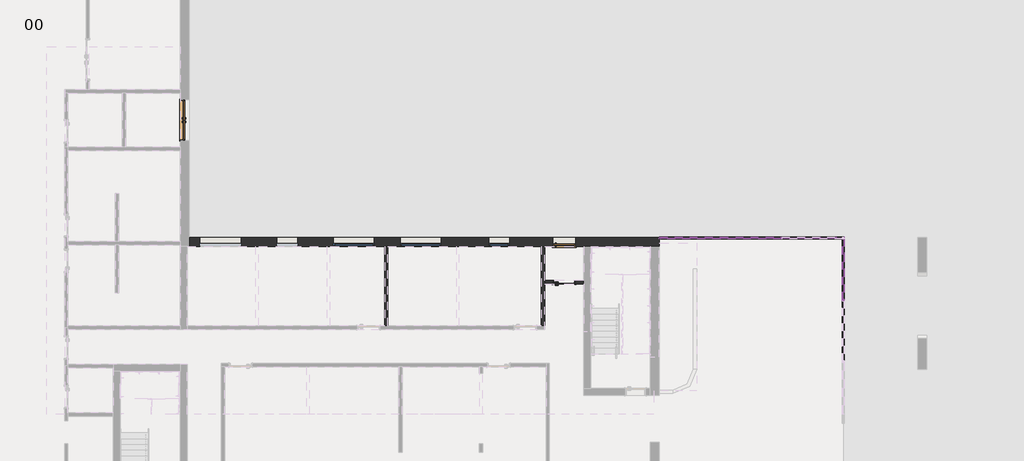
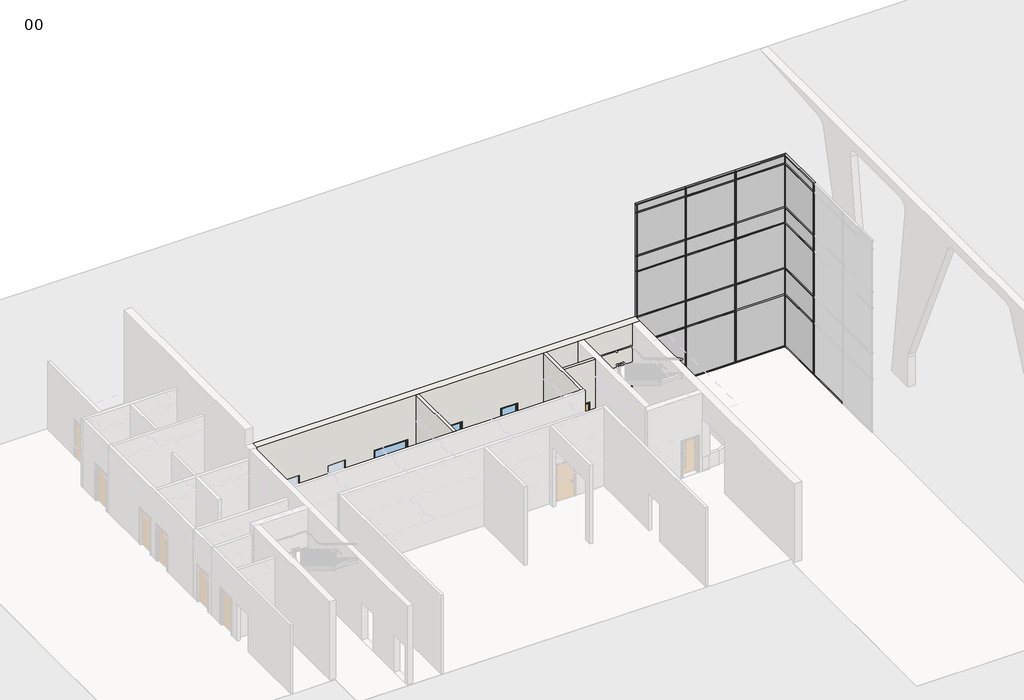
# One storey, part 7 of 11: 66 members, 24 plates, 4 walls, 3 doors, 3 windows.
"""IFC4 building model written with IfcOpenShell, lengths in millimetres."""

from ifc_helpers import new_model, si_unit, frame, origin, origin_with_axes, place, context, project, spatial, polyline, outline, extrude, faceted_brep, transform, mapped, element, save
from components import doors_extsgl_flush_1010x2110mm_caf77e55, doors_intsgl_1_1010x2110mm_7920e6b8, doors_sco_extdbl_flush_1810x2110mm_3cdf6cdb, rectangular_mullion_curtainwallmullion_rectangular_generic_8ae0e668, rectangular_mullion_curtainwallmullion_rectangular_generic_15c16c91, rectangular_mullion_curtainwallmullion_rectangular_generic_08fbcc14, rectangular_mullion_curtainwallmullion_rectangular_generic_83e55909, rectangular_mullion_curtainwallmullion_rectangular_generic_5675a122, rectangular_mullion_curtainwallmullion_rectangular_generic_397fb318, rectangular_mullion_curtainwallmullion_rectangular_generic_0a5b04f7, rectangular_mullion_curtainwallmullion_rectangular_generic_55e77994, rectangular_mullion_curtainwallmullion_rectangular_generic_aee1ee25, rectangular_mullion_curtainwallmullion_rectangular_generic_ecbc4312, rectangular_mullion_curtainwallmullion_rectangular_generic_5eb3c60d, rectangular_mullion_curtainwallmullion_rectangular_generic_0800385b, rectangular_mullion_curtainwallmullion_rectangular_generic_bd027367, rectangular_mullion_curtainwallmullion_rectangular_generic_2e425acd, rectangular_mullion_curtainwallmullion_rectangular_generic_12ad56c0, rectangular_mullion_curtainwallmullion_rectangular_generic_bd817207, rectangular_mullion_curtainwallmullion_rectangular_generic_654ac675, rectangular_mullion_curtainwallmullion_rectangular_generic_e7c47ca9, rectangular_mullion_curtainwallmullion_rectangular_generic_c0600e94, rectangular_mullion_curtainwallmullion_rectangular_generic_3bdb59d8, rectangular_mullion_curtainwallmullion_rectangular_generic_c640f651, rectangular_mullion_curtainwallmullion_rectangular_generic_afb0b622, rectangular_mullion_curtainwallmullion_rectangular_generic_b2d53351, rectangular_mullion_curtainwallmullion_rectangular_generic_d47b8a9d, system_panel_curtainpanel_glazed_34fb785a, system_panel_curtainpanel_glazed_e4a4eab4, system_panel_curtainpanel_glazed_add7ee21, system_panel_curtainpanel_glazed_62d472f1, system_panel_curtainpanel_glazed_085e24f9, system_panel_curtainpanel_glazed_61bd8d65, system_panel_curtainpanel_glazed_9c2ad216, system_panel_curtainpanel_glazed_ebc755d6, system_panel_curtainpanel_glazed_b0e91fb3, system_panel_curtainpanel_solid_dd3d5109, system_panel_curtainpanel_solid_473eca6b, system_panel_curtainpanel_solid_fc584997, system_panel_curtainpanel_solid_60141125, system_panel_curtainpanel_solid_58f7520c, system_panel_curtainpanel_solid_7c598b10, system_panel_curtainpanel_solid_5de49f81, system_panel_curtainpanel_solid_e1c9013e, system_panel_curtainpanel_solid_444add22, windows_concept_plain_sgl_1810x1210mm_7f7241d7, windows_concept_plain_sgl_910x1210mm_ef0b7ad2

model = new_model("IFC4")

# Units and contexts
model_context = context("Model", 3, world=origin())
ifc_project = project(units=[si_unit("LENGTHUNIT", "METRE", prefix="MILLI")], contexts=[model_context])

# Site, building, storey
site = spatial("IfcSite", under=ifc_project)
building = spatial("IfcBuilding", under=site)
storey = spatial("IfcBuildingStorey", under=building, Name="00", Elevation=0.0)

# Doors
placement = place(None, origin())
doors_extsgl_flush_1010x2110mm_shape = doors_extsgl_flush_1010x2110mm_caf77e55(model_context)
element("IfcDoor", 1, ObjectType="Doors_ExtSgl_Flush : 1010x2110mm", at=placement, inside=storey, context=model_context, shape_type="MappedRepresentation", body=[
    mapped(doors_extsgl_flush_1010x2110mm_shape, transform((441942.3206883, -381349.0026386, 0.0), x_axis=(1.0, 0.0, 0.0), y_axis=(0.0, 1.0, 0.0), z_axis=(0.0, 0.0, 1.0))),
])
doors_intsgl_1_1010x2110mm_shape = doors_intsgl_1_1010x2110mm_7920e6b8(model_context)
element("IfcDoor", 2, ObjectType="Doors_IntSgl_1 : 1010x2110mm", at=placement, inside=storey, context=model_context, shape_type="MappedRepresentation", body=[
    mapped(doors_intsgl_1_1010x2110mm_shape, transform((441942.3206883, -383125.0026386, 0.0), x_axis=(1.0, 0.0, 0.0), y_axis=(0.0, 1.0, 0.0), z_axis=(0.0, 0.0, 1.0))),
])
doors_sco_extdbl_flush_1810x2110mm_shape = doors_sco_extdbl_flush_1810x2110mm_3cdf6cdb(model_context)
element("IfcDoor", 3, ObjectType="Doors_SCO_ExtDbl_Flush : 1810x2110mm", at=placement, inside=storey, context=model_context, shape_type="MappedRepresentation", body=[
    mapped(doors_sco_extdbl_flush_1810x2110mm_shape, transform((425213.3206883, -375964.0026386, 0.0), x_axis=(0.0, 1.0, 0.0), y_axis=(-1.0, 0.0, 0.0), z_axis=(0.0, 0.0, 1.0))),
])

# Members
rectangular_mullion_curtainwallmullion_rectangular_generic_shape = rectangular_mullion_curtainwallmullion_rectangular_generic_8ae0e668(model_context)
element("IfcMember", 4, ObjectType="Rectangular Mullion : CurtainWallMullion_Rectangular_Generic", at=placement, inside=storey, context=model_context, shape_type="MappedRepresentation", body=[
    mapped(rectangular_mullion_curtainwallmullion_rectangular_generic_shape, transform((448817.3206884, -381170.0026386, 10486.7), x_axis=(1.0, 0.0, 0.0), y_axis=(0.0, -1.0, 0.0), z_axis=(0.0, 0.0, -1.0))),
])
element("IfcMember", 5, ObjectType="Rectangular Mullion : CurtainWallMullion_Rectangular_Generic", at=placement, inside=storey, context=model_context, shape_type="MappedRepresentation", body=[
    mapped(rectangular_mullion_curtainwallmullion_rectangular_generic_shape, transform((451519.3206882, -381170.0026386, 10486.7), x_axis=(1.0, 0.0, 0.0), y_axis=(0.0, -1.0, 0.0), z_axis=(0.0, 0.0, -1.0))),
])
element("IfcMember", 6, ObjectType="Rectangular Mullion : CurtainWallMullion_Rectangular_Generic", at=placement, inside=storey, context=model_context, shape_type="MappedRepresentation", body=[
    mapped(rectangular_mullion_curtainwallmullion_rectangular_generic_shape, transform((454246.3206883, -383909.6026389, 10486.7), x_axis=(0.0, -1.0, 0.0), y_axis=(-1.0, 0.0, 0.0), z_axis=(0.0, 0.0, -1.0))),
])
rectangular_mullion_curtainwallmullion_rectangular_generic_2_shape = rectangular_mullion_curtainwallmullion_rectangular_generic_15c16c91(model_context)
element("IfcMember", 7, ObjectType="Rectangular Mullion : CurtainWallMullion_Rectangular_Generic", at=placement, inside=storey, context=model_context, shape_type="MappedRepresentation", body=[
    mapped(rectangular_mullion_curtainwallmullion_rectangular_generic_2_shape, transform((454246.3206883, -381170.0026386, 10486.7), x_axis=(1.0, 0.0, 0.0), y_axis=(0.0, -1.0, 0.0), z_axis=(0.0, 0.0, -1.0))),
])
element("IfcMember", 8, ObjectType="Rectangular Mullion : CurtainWallMullion_Rectangular_Generic", at=placement, inside=storey, context=model_context, shape_type="MappedRepresentation", body=[
    mapped(rectangular_mullion_curtainwallmullion_rectangular_generic_2_shape, transform((446140.3206883, -381170.0026386, 10950.0), x_axis=(-1.0, 0.0, 0.0), y_axis=(0.0, -1.0, 0.0), z_axis=(0.0, 0.0, 1.0))),
])
element("IfcMember", 9, ObjectType="Rectangular Mullion : CurtainWallMullion_Rectangular_Generic", at=placement, inside=storey, context=model_context, shape_type="MappedRepresentation", body=[
    mapped(rectangular_mullion_curtainwallmullion_rectangular_generic_2_shape, transform((454246.3206883, -381170.0026386, 10950.0), x_axis=(0.0, 1.0, 0.0), y_axis=(-1.0, 0.0, 0.0), z_axis=(0.0, 0.0, 1.0))),
])
rectangular_mullion_curtainwallmullion_rectangular_generic_3_shape = rectangular_mullion_curtainwallmullion_rectangular_generic_08fbcc14(model_context)
element("IfcMember", 10, ObjectType="Rectangular Mullion : CurtainWallMullion_Rectangular_Generic", at=placement, inside=storey, context=model_context, shape_type="MappedRepresentation", body=[
    mapped(rectangular_mullion_curtainwallmullion_rectangular_generic_3_shape, transform((454246.3206883, -383909.6026389, 8000.0), x_axis=(0.0, -1.0, 0.0), y_axis=(-1.0, 0.0, 0.0), z_axis=(0.0, 0.0, -1.0))),
])
element("IfcMember", 11, ObjectType="Rectangular Mullion : CurtainWallMullion_Rectangular_Generic", at=placement, inside=storey, context=model_context, shape_type="MappedRepresentation", body=[
    mapped(rectangular_mullion_curtainwallmullion_rectangular_generic_3_shape, transform((448817.3206884, -381170.0026386, 8000.0), x_axis=(1.0, 0.0, 0.0), y_axis=(0.0, -1.0, 0.0), z_axis=(0.0, 0.0, -1.0))),
])
element("IfcMember", 12, ObjectType="Rectangular Mullion : CurtainWallMullion_Rectangular_Generic", at=placement, inside=storey, context=model_context, shape_type="MappedRepresentation", body=[
    mapped(rectangular_mullion_curtainwallmullion_rectangular_generic_3_shape, transform((451519.3206882, -381170.0026386, 8000.0), x_axis=(1.0, 0.0, 0.0), y_axis=(0.0, -1.0, 0.0), z_axis=(0.0, 0.0, -1.0))),
])
rectangular_mullion_curtainwallmullion_rectangular_generic_4_shape = rectangular_mullion_curtainwallmullion_rectangular_generic_83e55909(model_context)
element("IfcMember", 13, ObjectType="Rectangular Mullion : CurtainWallMullion_Rectangular_Generic", at=placement, inside=storey, context=model_context, shape_type="MappedRepresentation", body=[
    mapped(rectangular_mullion_curtainwallmullion_rectangular_generic_4_shape, transform((446140.3206883, -381170.0026386, 10486.7), x_axis=(-1.0, 0.0, 0.0), y_axis=(0.0, -1.0, 0.0), z_axis=(0.0, 0.0, 1.0))),
])
element("IfcMember", 14, ObjectType="Rectangular Mullion : CurtainWallMullion_Rectangular_Generic", at=placement, inside=storey, context=model_context, shape_type="MappedRepresentation", body=[
    mapped(rectangular_mullion_curtainwallmullion_rectangular_generic_4_shape, transform((454246.3206883, -381170.0026386, 10486.7), x_axis=(0.0, 1.0, 0.0), y_axis=(-1.0, 0.0, 0.0), z_axis=(0.0, 0.0, 1.0))),
])
rectangular_mullion_curtainwallmullion_rectangular_generic_5_shape = rectangular_mullion_curtainwallmullion_rectangular_generic_5675a122(model_context)
element("IfcMember", 15, ObjectType="Rectangular Mullion : CurtainWallMullion_Rectangular_Generic", at=placement, inside=storey, context=model_context, shape_type="MappedRepresentation", body=[
    mapped(rectangular_mullion_curtainwallmullion_rectangular_generic_5_shape, transform((448817.3206884, -381170.0026386, 50.0), x_axis=(1.0, 0.0, 0.0), y_axis=(0.0, -1.0, 0.0), z_axis=(0.0, 0.0, -1.0))),
])
element("IfcMember", 16, ObjectType="Rectangular Mullion : CurtainWallMullion_Rectangular_Generic", at=placement, inside=storey, context=model_context, shape_type="MappedRepresentation", body=[
    mapped(rectangular_mullion_curtainwallmullion_rectangular_generic_5_shape, transform((451519.3206882, -381170.0026386, 50.0), x_axis=(1.0, 0.0, 0.0), y_axis=(0.0, -1.0, 0.0), z_axis=(0.0, 0.0, -1.0))),
])
element("IfcMember", 17, ObjectType="Rectangular Mullion : CurtainWallMullion_Rectangular_Generic", at=placement, inside=storey, context=model_context, shape_type="MappedRepresentation", body=[
    mapped(rectangular_mullion_curtainwallmullion_rectangular_generic_5_shape, transform((454246.3206883, -383909.6026389, 50.0), x_axis=(0.0, -1.0, 0.0), y_axis=(-1.0, 0.0, 0.0), z_axis=(0.0, 0.0, -1.0))),
])
rectangular_mullion_curtainwallmullion_rectangular_generic_6_shape = rectangular_mullion_curtainwallmullion_rectangular_generic_397fb318(model_context)
element("IfcMember", 18, ObjectType="Rectangular Mullion : CurtainWallMullion_Rectangular_Generic", at=placement, inside=storey, context=model_context, shape_type="MappedRepresentation", body=[
    mapped(rectangular_mullion_curtainwallmullion_rectangular_generic_6_shape, transform((446140.3206883, -381170.0026386, 2425.0), x_axis=(-1.0, 0.0, 0.0), y_axis=(0.0, -1.0, 0.0), z_axis=(0.0, 0.0, 1.0))),
])
element("IfcMember", 19, ObjectType="Rectangular Mullion : CurtainWallMullion_Rectangular_Generic", at=placement, inside=storey, context=model_context, shape_type="MappedRepresentation", body=[
    mapped(rectangular_mullion_curtainwallmullion_rectangular_generic_6_shape, transform((454246.3206883, -381170.0026386, 2425.0), x_axis=(0.0, 1.0, 0.0), y_axis=(-1.0, 0.0, 0.0), z_axis=(0.0, 0.0, 1.0))),
])
element("IfcMember", 20, ObjectType="Rectangular Mullion : CurtainWallMullion_Rectangular_Generic", at=placement, inside=storey, context=model_context, shape_type="MappedRepresentation", body=[
    mapped(rectangular_mullion_curtainwallmullion_rectangular_generic_6_shape, transform((454246.3206883, -381170.0026386, 50.0), x_axis=(1.0, 0.0, 0.0), y_axis=(0.0, -1.0, 0.0), z_axis=(0.0, 0.0, -1.0))),
])
rectangular_mullion_curtainwallmullion_rectangular_generic_7_shape = rectangular_mullion_curtainwallmullion_rectangular_generic_0a5b04f7(model_context)
element("IfcMember", 21, ObjectType="Rectangular Mullion : CurtainWallMullion_Rectangular_Generic", at=placement, inside=storey, context=model_context, shape_type="MappedRepresentation", body=[
    mapped(rectangular_mullion_curtainwallmullion_rectangular_generic_7_shape, transform((454246.3206883, -381170.0026386, 11000.0), x_axis=(0.0, 0.0, 1.0), y_axis=(0.0, -1.0, 0.0), z_axis=(1.0, 0.0, 0.0))),
])
rectangular_mullion_curtainwallmullion_rectangular_generic_8_shape = rectangular_mullion_curtainwallmullion_rectangular_generic_55e77994(model_context)
element("IfcMember", 22, ObjectType="Rectangular Mullion : CurtainWallMullion_Rectangular_Generic", at=placement, inside=storey, context=model_context, shape_type="MappedRepresentation", body=[
    mapped(rectangular_mullion_curtainwallmullion_rectangular_generic_8_shape, transform((454246.3206883, -383909.6026389, 11000.0), x_axis=(0.0, 0.0, 1.0), y_axis=(-1.0, 0.0, 0.0), z_axis=(0.0, -1.0, 0.0))),
])
rectangular_mullion_curtainwallmullion_rectangular_generic_9_shape = rectangular_mullion_curtainwallmullion_rectangular_generic_aee1ee25(model_context)
element("IfcMember", 23, ObjectType="Rectangular Mullion : CurtainWallMullion_Rectangular_Generic", at=placement, inside=storey, context=model_context, shape_type="MappedRepresentation", body=[
    mapped(rectangular_mullion_curtainwallmullion_rectangular_generic_9_shape, transform((448817.3206884, -381170.0026386, 11000.0), x_axis=(0.0, 0.0, 1.0), y_axis=(0.0, -1.0, 0.0), z_axis=(1.0, 0.0, 0.0))),
])
rectangular_mullion_curtainwallmullion_rectangular_generic_10_shape = rectangular_mullion_curtainwallmullion_rectangular_generic_ecbc4312(model_context)
element("IfcMember", 24, ObjectType="Rectangular Mullion : CurtainWallMullion_Rectangular_Generic", at=placement, inside=storey, context=model_context, shape_type="MappedRepresentation", body=[
    mapped(rectangular_mullion_curtainwallmullion_rectangular_generic_10_shape, transform((451519.3206882, -381170.0026386, 11000.0), x_axis=(0.0, 0.0, 1.0), y_axis=(0.0, -1.0, 0.0), z_axis=(1.0, 0.0, 0.0))),
])
element("IfcMember", 25, ObjectType="Rectangular Mullion : CurtainWallMullion_Rectangular_Generic", at=placement, inside=storey, context=model_context, shape_type="MappedRepresentation", body=[
    mapped(rectangular_mullion_curtainwallmullion_rectangular_generic_9_shape, transform((446140.3206883, -381170.0026386, 0.0), x_axis=(0.0, 0.0, -1.0), y_axis=(0.0, -1.0, 0.0), z_axis=(-1.0, 0.0, 0.0))),
])
element("IfcMember", 26, ObjectType="Rectangular Mullion : CurtainWallMullion_Rectangular_Generic", at=placement, inside=storey, context=model_context, shape_type="MappedRepresentation", body=[
    mapped(rectangular_mullion_curtainwallmullion_rectangular_generic_10_shape, transform((448817.3206884, -381170.0026386, 0.0), x_axis=(0.0, 0.0, -1.0), y_axis=(0.0, -1.0, 0.0), z_axis=(-1.0, 0.0, 0.0))),
])
rectangular_mullion_curtainwallmullion_rectangular_generic_11_shape = rectangular_mullion_curtainwallmullion_rectangular_generic_5eb3c60d(model_context)
element("IfcMember", 27, ObjectType="Rectangular Mullion : CurtainWallMullion_Rectangular_Generic", at=placement, inside=storey, context=model_context, shape_type="MappedRepresentation", body=[
    mapped(rectangular_mullion_curtainwallmullion_rectangular_generic_11_shape, transform((451519.3206882, -381170.0026386, 0.0), x_axis=(0.0, 0.0, -1.0), y_axis=(0.0, -1.0, 0.0), z_axis=(-1.0, 0.0, 0.0))),
])
rectangular_mullion_curtainwallmullion_rectangular_generic_12_shape = rectangular_mullion_curtainwallmullion_rectangular_generic_0800385b(model_context)
element("IfcMember", 28, ObjectType="Rectangular Mullion : CurtainWallMullion_Rectangular_Generic", at=placement, inside=storey, context=model_context, shape_type="MappedRepresentation", body=[
    mapped(rectangular_mullion_curtainwallmullion_rectangular_generic_12_shape, transform((454246.3206883, -381170.0026386, 0.0), x_axis=(0.0, 0.0, -1.0), y_axis=(-1.0, 0.0, 0.0), z_axis=(0.0, 1.0, 0.0))),
])
rectangular_mullion_curtainwallmullion_rectangular_generic_13_shape = rectangular_mullion_curtainwallmullion_rectangular_generic_bd027367(model_context)
element("IfcMember", 29, ObjectType="Rectangular Mullion : CurtainWallMullion_Rectangular_Generic", at=placement, inside=storey, context=model_context, shape_type="MappedRepresentation", body=[
    mapped(rectangular_mullion_curtainwallmullion_rectangular_generic_13_shape, transform((448792.3206884, -381170.0026386, 4500.0), x_axis=(0.0, 0.0, 1.0), y_axis=(0.0, -1.0, 0.0), z_axis=(1.0, 0.0, 0.0))),
])
element("IfcMember", 30, ObjectType="Rectangular Mullion : CurtainWallMullion_Rectangular_Generic", at=placement, inside=storey, context=model_context, shape_type="MappedRepresentation", body=[
    mapped(rectangular_mullion_curtainwallmullion_rectangular_generic_13_shape, transform((448792.3206884, -381170.0026386, 7100.0), x_axis=(0.0, 0.0, 1.0), y_axis=(0.0, -1.0, 0.0), z_axis=(1.0, 0.0, 0.0))),
])
element("IfcMember", 31, ObjectType="Rectangular Mullion : CurtainWallMullion_Rectangular_Generic", at=placement, inside=storey, context=model_context, shape_type="MappedRepresentation", body=[
    mapped(rectangular_mullion_curtainwallmullion_rectangular_generic_13_shape, transform((448792.3206884, -381170.0026386, 10486.7), x_axis=(0.0, 0.0, 1.0), y_axis=(0.0, -1.0, 0.0), z_axis=(1.0, 0.0, 0.0))),
])
element("IfcMember", 32, ObjectType="Rectangular Mullion : CurtainWallMullion_Rectangular_Generic", at=placement, inside=storey, context=model_context, shape_type="MappedRepresentation", body=[
    mapped(rectangular_mullion_curtainwallmullion_rectangular_generic_13_shape, transform((448792.3206884, -381170.0026386, 8000.0), x_axis=(0.0, 0.0, 1.0), y_axis=(0.0, -1.0, 0.0), z_axis=(1.0, 0.0, 0.0))),
])
element("IfcMember", 33, ObjectType="Rectangular Mullion : CurtainWallMullion_Rectangular_Generic", at=placement, inside=storey, context=model_context, shape_type="MappedRepresentation", body=[
    mapped(rectangular_mullion_curtainwallmullion_rectangular_generic_13_shape, transform((448792.3206884, -381170.0026386, 3000.0), x_axis=(0.0, 0.0, 1.0), y_axis=(0.0, -1.0, 0.0), z_axis=(1.0, 0.0, 0.0))),
])
rectangular_mullion_curtainwallmullion_rectangular_generic_14_shape = rectangular_mullion_curtainwallmullion_rectangular_generic_2e425acd(model_context)
element("IfcMember", 34, ObjectType="Rectangular Mullion : CurtainWallMullion_Rectangular_Generic", at=placement, inside=storey, context=model_context, shape_type="MappedRepresentation", body=[
    mapped(rectangular_mullion_curtainwallmullion_rectangular_generic_14_shape, transform((451494.3206882, -381170.0026386, 4500.0), x_axis=(0.0, 0.0, 1.0), y_axis=(0.0, -1.0, 0.0), z_axis=(1.0, 0.0, 0.0))),
])
element("IfcMember", 35, ObjectType="Rectangular Mullion : CurtainWallMullion_Rectangular_Generic", at=placement, inside=storey, context=model_context, shape_type="MappedRepresentation", body=[
    mapped(rectangular_mullion_curtainwallmullion_rectangular_generic_14_shape, transform((454196.3206883, -381170.0026386, 4500.0), x_axis=(0.0, 0.0, 1.0), y_axis=(0.0, -1.0, 0.0), z_axis=(1.0, 0.0, 0.0))),
])
element("IfcMember", 36, ObjectType="Rectangular Mullion : CurtainWallMullion_Rectangular_Generic", at=placement, inside=storey, context=model_context, shape_type="MappedRepresentation", body=[
    mapped(rectangular_mullion_curtainwallmullion_rectangular_generic_14_shape, transform((451494.3206882, -381170.0026386, 7100.0), x_axis=(0.0, 0.0, 1.0), y_axis=(0.0, -1.0, 0.0), z_axis=(1.0, 0.0, 0.0))),
])
element("IfcMember", 37, ObjectType="Rectangular Mullion : CurtainWallMullion_Rectangular_Generic", at=placement, inside=storey, context=model_context, shape_type="MappedRepresentation", body=[
    mapped(rectangular_mullion_curtainwallmullion_rectangular_generic_14_shape, transform((454196.3206883, -381170.0026386, 7100.0), x_axis=(0.0, 0.0, 1.0), y_axis=(0.0, -1.0, 0.0), z_axis=(1.0, 0.0, 0.0))),
])
element("IfcMember", 38, ObjectType="Rectangular Mullion : CurtainWallMullion_Rectangular_Generic", at=placement, inside=storey, context=model_context, shape_type="MappedRepresentation", body=[
    mapped(rectangular_mullion_curtainwallmullion_rectangular_generic_14_shape, transform((451494.3206882, -381170.0026386, 10486.7), x_axis=(0.0, 0.0, 1.0), y_axis=(0.0, -1.0, 0.0), z_axis=(1.0, 0.0, 0.0))),
])
element("IfcMember", 39, ObjectType="Rectangular Mullion : CurtainWallMullion_Rectangular_Generic", at=placement, inside=storey, context=model_context, shape_type="MappedRepresentation", body=[
    mapped(rectangular_mullion_curtainwallmullion_rectangular_generic_14_shape, transform((454196.3206883, -381170.0026386, 10486.7), x_axis=(0.0, 0.0, 1.0), y_axis=(0.0, -1.0, 0.0), z_axis=(1.0, 0.0, 0.0))),
])
element("IfcMember", 40, ObjectType="Rectangular Mullion : CurtainWallMullion_Rectangular_Generic", at=placement, inside=storey, context=model_context, shape_type="MappedRepresentation", body=[
    mapped(rectangular_mullion_curtainwallmullion_rectangular_generic_14_shape, transform((451494.3206882, -381170.0026386, 8000.0), x_axis=(0.0, 0.0, 1.0), y_axis=(0.0, -1.0, 0.0), z_axis=(1.0, 0.0, 0.0))),
])
element("IfcMember", 41, ObjectType="Rectangular Mullion : CurtainWallMullion_Rectangular_Generic", at=placement, inside=storey, context=model_context, shape_type="MappedRepresentation", body=[
    mapped(rectangular_mullion_curtainwallmullion_rectangular_generic_14_shape, transform((451494.3206882, -381170.0026386, 3000.0), x_axis=(0.0, 0.0, 1.0), y_axis=(0.0, -1.0, 0.0), z_axis=(1.0, 0.0, 0.0))),
])
rectangular_mullion_curtainwallmullion_rectangular_generic_15_shape = rectangular_mullion_curtainwallmullion_rectangular_generic_12ad56c0(model_context)
element("IfcMember", 42, ObjectType="Rectangular Mullion : CurtainWallMullion_Rectangular_Generic", at=placement, inside=storey, context=model_context, shape_type="MappedRepresentation", body=[
    mapped(rectangular_mullion_curtainwallmullion_rectangular_generic_15_shape, transform((454246.3206883, -383909.6026389, 0.0), x_axis=(0.0, 0.0, -1.0), y_axis=(-1.0, 0.0, 0.0), z_axis=(0.0, 1.0, 0.0))),
])
rectangular_mullion_curtainwallmullion_rectangular_generic_16_shape = rectangular_mullion_curtainwallmullion_rectangular_generic_bd817207(model_context)
element("IfcMember", 43, ObjectType="Rectangular Mullion : CurtainWallMullion_Rectangular_Generic", at=placement, inside=storey, context=model_context, shape_type="MappedRepresentation", body=[
    mapped(rectangular_mullion_curtainwallmullion_rectangular_generic_16_shape, transform((454246.3206883, -383884.6026389, 4500.0), x_axis=(0.0, 0.0, 1.0), y_axis=(-1.0, 0.0, 0.0), z_axis=(0.0, -1.0, 0.0))),
])
element("IfcMember", 44, ObjectType="Rectangular Mullion : CurtainWallMullion_Rectangular_Generic", at=placement, inside=storey, context=model_context, shape_type="MappedRepresentation", body=[
    mapped(rectangular_mullion_curtainwallmullion_rectangular_generic_16_shape, transform((454246.3206883, -383884.6026389, 7100.0), x_axis=(0.0, 0.0, 1.0), y_axis=(-1.0, 0.0, 0.0), z_axis=(0.0, -1.0, 0.0))),
])
element("IfcMember", 45, ObjectType="Rectangular Mullion : CurtainWallMullion_Rectangular_Generic", at=placement, inside=storey, context=model_context, shape_type="MappedRepresentation", body=[
    mapped(rectangular_mullion_curtainwallmullion_rectangular_generic_16_shape, transform((454246.3206883, -383884.6026389, 10486.7), x_axis=(0.0, 0.0, 1.0), y_axis=(-1.0, 0.0, 0.0), z_axis=(0.0, -1.0, 0.0))),
])
element("IfcMember", 46, ObjectType="Rectangular Mullion : CurtainWallMullion_Rectangular_Generic", at=placement, inside=storey, context=model_context, shape_type="MappedRepresentation", body=[
    mapped(rectangular_mullion_curtainwallmullion_rectangular_generic_16_shape, transform((454246.3206883, -383884.6026389, 8000.0), x_axis=(0.0, 0.0, 1.0), y_axis=(-1.0, 0.0, 0.0), z_axis=(0.0, -1.0, 0.0))),
])
element("IfcMember", 47, ObjectType="Rectangular Mullion : CurtainWallMullion_Rectangular_Generic", at=placement, inside=storey, context=model_context, shape_type="MappedRepresentation", body=[
    mapped(rectangular_mullion_curtainwallmullion_rectangular_generic_16_shape, transform((454246.3206883, -383884.6026389, 3000.0), x_axis=(0.0, 0.0, 1.0), y_axis=(-1.0, 0.0, 0.0), z_axis=(0.0, -1.0, 0.0))),
])
rectangular_mullion_curtainwallmullion_rectangular_generic_17_shape = rectangular_mullion_curtainwallmullion_rectangular_generic_654ac675(model_context)
element("IfcMember", 48, ObjectType="Rectangular Mullion : CurtainWallMullion_Rectangular_Generic", at=placement, inside=storey, context=model_context, shape_type="MappedRepresentation", body=[
    mapped(rectangular_mullion_curtainwallmullion_rectangular_generic_17_shape, transform((448817.3206884, -381170.0026386, 4500.0), x_axis=(1.0, 0.0, 0.0), y_axis=(0.0, -1.0, 0.0), z_axis=(0.0, 0.0, -1.0))),
])
element("IfcMember", 49, ObjectType="Rectangular Mullion : CurtainWallMullion_Rectangular_Generic", at=placement, inside=storey, context=model_context, shape_type="MappedRepresentation", body=[
    mapped(rectangular_mullion_curtainwallmullion_rectangular_generic_17_shape, transform((451519.3206882, -381170.0026386, 4500.0), x_axis=(1.0, 0.0, 0.0), y_axis=(0.0, -1.0, 0.0), z_axis=(0.0, 0.0, -1.0))),
])
element("IfcMember", 50, ObjectType="Rectangular Mullion : CurtainWallMullion_Rectangular_Generic", at=placement, inside=storey, context=model_context, shape_type="MappedRepresentation", body=[
    mapped(rectangular_mullion_curtainwallmullion_rectangular_generic_17_shape, transform((454246.3206883, -383909.6026389, 4500.0), x_axis=(0.0, -1.0, 0.0), y_axis=(-1.0, 0.0, 0.0), z_axis=(0.0, 0.0, -1.0))),
])
rectangular_mullion_curtainwallmullion_rectangular_generic_18_shape = rectangular_mullion_curtainwallmullion_rectangular_generic_e7c47ca9(model_context)
element("IfcMember", 51, ObjectType="Rectangular Mullion : CurtainWallMullion_Rectangular_Generic", at=placement, inside=storey, context=model_context, shape_type="MappedRepresentation", body=[
    mapped(rectangular_mullion_curtainwallmullion_rectangular_generic_18_shape, transform((454246.3206883, -381170.0026386, 4500.0), x_axis=(1.0, 0.0, 0.0), y_axis=(0.0, -1.0, 0.0), z_axis=(0.0, 0.0, -1.0))),
])
element("IfcMember", 52, ObjectType="Rectangular Mullion : CurtainWallMullion_Rectangular_Generic", at=placement, inside=storey, context=model_context, shape_type="MappedRepresentation", body=[
    mapped(rectangular_mullion_curtainwallmullion_rectangular_generic_18_shape, transform((446140.3206883, -381170.0026386, 7100.0), x_axis=(-1.0, 0.0, 0.0), y_axis=(0.0, -1.0, 0.0), z_axis=(0.0, 0.0, 1.0))),
])
element("IfcMember", 53, ObjectType="Rectangular Mullion : CurtainWallMullion_Rectangular_Generic", at=placement, inside=storey, context=model_context, shape_type="MappedRepresentation", body=[
    mapped(rectangular_mullion_curtainwallmullion_rectangular_generic_18_shape, transform((454246.3206883, -381170.0026386, 7100.0), x_axis=(0.0, 1.0, 0.0), y_axis=(-1.0, 0.0, 0.0), z_axis=(0.0, 0.0, 1.0))),
])
rectangular_mullion_curtainwallmullion_rectangular_generic_19_shape = rectangular_mullion_curtainwallmullion_rectangular_generic_c0600e94(model_context)
element("IfcMember", 54, ObjectType="Rectangular Mullion : CurtainWallMullion_Rectangular_Generic", at=placement, inside=storey, context=model_context, shape_type="MappedRepresentation", body=[
    mapped(rectangular_mullion_curtainwallmullion_rectangular_generic_19_shape, transform((454246.3206883, -383909.6026389, 3000.0), x_axis=(0.0, -1.0, 0.0), y_axis=(-1.0, 0.0, 0.0), z_axis=(0.0, 0.0, -1.0))),
])
element("IfcMember", 55, ObjectType="Rectangular Mullion : CurtainWallMullion_Rectangular_Generic", at=placement, inside=storey, context=model_context, shape_type="MappedRepresentation", body=[
    mapped(rectangular_mullion_curtainwallmullion_rectangular_generic_19_shape, transform((448817.3206884, -381170.0026386, 3000.0), x_axis=(1.0, 0.0, 0.0), y_axis=(0.0, -1.0, 0.0), z_axis=(0.0, 0.0, -1.0))),
])
element("IfcMember", 56, ObjectType="Rectangular Mullion : CurtainWallMullion_Rectangular_Generic", at=placement, inside=storey, context=model_context, shape_type="MappedRepresentation", body=[
    mapped(rectangular_mullion_curtainwallmullion_rectangular_generic_19_shape, transform((451519.3206882, -381170.0026386, 3000.0), x_axis=(1.0, 0.0, 0.0), y_axis=(0.0, -1.0, 0.0), z_axis=(0.0, 0.0, -1.0))),
])
rectangular_mullion_curtainwallmullion_rectangular_generic_20_shape = rectangular_mullion_curtainwallmullion_rectangular_generic_3bdb59d8(model_context)
element("IfcMember", 57, ObjectType="Rectangular Mullion : CurtainWallMullion_Rectangular_Generic", at=placement, inside=storey, context=model_context, shape_type="MappedRepresentation", body=[
    mapped(rectangular_mullion_curtainwallmullion_rectangular_generic_20_shape, transform((446140.3206883, -381170.0026386, 4500.0), x_axis=(-1.0, 0.0, 0.0), y_axis=(0.0, -1.0, 0.0), z_axis=(0.0, 0.0, 1.0))),
])
element("IfcMember", 58, ObjectType="Rectangular Mullion : CurtainWallMullion_Rectangular_Generic", at=placement, inside=storey, context=model_context, shape_type="MappedRepresentation", body=[
    mapped(rectangular_mullion_curtainwallmullion_rectangular_generic_20_shape, transform((454246.3206883, -381170.0026386, 4500.0), x_axis=(0.0, 1.0, 0.0), y_axis=(-1.0, 0.0, 0.0), z_axis=(0.0, 0.0, 1.0))),
])
rectangular_mullion_curtainwallmullion_rectangular_generic_21_shape = rectangular_mullion_curtainwallmullion_rectangular_generic_c640f651(model_context)
element("IfcMember", 59, ObjectType="Rectangular Mullion : CurtainWallMullion_Rectangular_Generic", at=placement, inside=storey, context=model_context, shape_type="MappedRepresentation", body=[
    mapped(rectangular_mullion_curtainwallmullion_rectangular_generic_21_shape, transform((448817.3206884, -381170.0026386, 7100.0), x_axis=(1.0, 0.0, 0.0), y_axis=(0.0, -1.0, 0.0), z_axis=(0.0, 0.0, -1.0))),
])
element("IfcMember", 60, ObjectType="Rectangular Mullion : CurtainWallMullion_Rectangular_Generic", at=placement, inside=storey, context=model_context, shape_type="MappedRepresentation", body=[
    mapped(rectangular_mullion_curtainwallmullion_rectangular_generic_21_shape, transform((451519.3206882, -381170.0026386, 7100.0), x_axis=(1.0, 0.0, 0.0), y_axis=(0.0, -1.0, 0.0), z_axis=(0.0, 0.0, -1.0))),
])
element("IfcMember", 61, ObjectType="Rectangular Mullion : CurtainWallMullion_Rectangular_Generic", at=placement, inside=storey, context=model_context, shape_type="MappedRepresentation", body=[
    mapped(rectangular_mullion_curtainwallmullion_rectangular_generic_21_shape, transform((454246.3206883, -383909.6026389, 7100.0), x_axis=(0.0, -1.0, 0.0), y_axis=(-1.0, 0.0, 0.0), z_axis=(0.0, 0.0, -1.0))),
])
rectangular_mullion_curtainwallmullion_rectangular_generic_22_shape = rectangular_mullion_curtainwallmullion_rectangular_generic_afb0b622(model_context)
element("IfcMember", 62, ObjectType="Rectangular Mullion : CurtainWallMullion_Rectangular_Generic", at=placement, inside=storey, context=model_context, shape_type="MappedRepresentation", body=[
    mapped(rectangular_mullion_curtainwallmullion_rectangular_generic_22_shape, transform((454246.3206883, -381170.0026386, 7100.0), x_axis=(1.0, 0.0, 0.0), y_axis=(0.0, -1.0, 0.0), z_axis=(0.0, 0.0, -1.0))),
])
element("IfcMember", 63, ObjectType="Rectangular Mullion : CurtainWallMullion_Rectangular_Generic", at=placement, inside=storey, context=model_context, shape_type="MappedRepresentation", body=[
    mapped(rectangular_mullion_curtainwallmullion_rectangular_generic_22_shape, transform((454246.3206883, -381170.0026386, 8000.0), x_axis=(0.0, 1.0, 0.0), y_axis=(-1.0, 0.0, 0.0), z_axis=(0.0, 0.0, 1.0))),
])
element("IfcMember", 64, ObjectType="Rectangular Mullion : CurtainWallMullion_Rectangular_Generic", at=placement, inside=storey, context=model_context, shape_type="MappedRepresentation", body=[
    mapped(rectangular_mullion_curtainwallmullion_rectangular_generic_22_shape, transform((446140.3206883, -381170.0026386, 8000.0), x_axis=(-1.0, 0.0, 0.0), y_axis=(0.0, -1.0, 0.0), z_axis=(0.0, 0.0, 1.0))),
])
rectangular_mullion_curtainwallmullion_rectangular_generic_23_shape = rectangular_mullion_curtainwallmullion_rectangular_generic_b2d53351(model_context)
element("IfcMember", 65, ObjectType="Rectangular Mullion : CurtainWallMullion_Rectangular_Generic", at=placement, inside=storey, context=model_context, shape_type="MappedRepresentation", body=[
    mapped(rectangular_mullion_curtainwallmullion_rectangular_generic_23_shape, transform((448817.3206884, -381170.0026386, 2425.0), x_axis=(1.0, 0.0, 0.0), y_axis=(0.0, -1.0, 0.0), z_axis=(0.0, 0.0, -1.0))),
])
element("IfcMember", 66, ObjectType="Rectangular Mullion : CurtainWallMullion_Rectangular_Generic", at=placement, inside=storey, context=model_context, shape_type="MappedRepresentation", body=[
    mapped(rectangular_mullion_curtainwallmullion_rectangular_generic_23_shape, transform((451519.3206882, -381170.0026386, 2425.0), x_axis=(1.0, 0.0, 0.0), y_axis=(0.0, -1.0, 0.0), z_axis=(0.0, 0.0, -1.0))),
])
element("IfcMember", 67, ObjectType="Rectangular Mullion : CurtainWallMullion_Rectangular_Generic", at=placement, inside=storey, context=model_context, shape_type="MappedRepresentation", body=[
    mapped(rectangular_mullion_curtainwallmullion_rectangular_generic_23_shape, transform((454246.3206883, -383909.6026389, 2425.0), x_axis=(0.0, -1.0, 0.0), y_axis=(-1.0, 0.0, 0.0), z_axis=(0.0, 0.0, -1.0))),
])
rectangular_mullion_curtainwallmullion_rectangular_generic_24_shape = rectangular_mullion_curtainwallmullion_rectangular_generic_d47b8a9d(model_context)
element("IfcMember", 68, ObjectType="Rectangular Mullion : CurtainWallMullion_Rectangular_Generic", at=placement, inside=storey, context=model_context, shape_type="MappedRepresentation", body=[
    mapped(rectangular_mullion_curtainwallmullion_rectangular_generic_24_shape, transform((454246.3206883, -381170.0026386, 2425.0), x_axis=(1.0, 0.0, 0.0), y_axis=(0.0, -1.0, 0.0), z_axis=(0.0, 0.0, -1.0))),
])
element("IfcMember", 69, ObjectType="Rectangular Mullion : CurtainWallMullion_Rectangular_Generic", at=placement, inside=storey, context=model_context, shape_type="MappedRepresentation", body=[
    mapped(rectangular_mullion_curtainwallmullion_rectangular_generic_24_shape, transform((446140.3206883, -381170.0026386, 3000.0), x_axis=(-1.0, 0.0, 0.0), y_axis=(0.0, -1.0, 0.0), z_axis=(0.0, 0.0, 1.0))),
])

# Plates
system_panel_curtainpanel_glazed_shape = system_panel_curtainpanel_glazed_34fb785a(model_context)
element("IfcPlate", 70, ObjectType="System Panel : CurtainPanel_Glazed", at=placement, inside=storey, context=model_context, shape_type="MappedRepresentation", body=[
    mapped(system_panel_curtainpanel_glazed_shape, transform((454246.3206883, -382552.3026387, 8025.0), x_axis=(0.0, -1.0, 0.0), y_axis=(1.0, 0.0, 0.0), z_axis=(0.0, 0.0, 1.0))),
])
system_panel_curtainpanel_glazed_2_shape = system_panel_curtainpanel_glazed_e4a4eab4(model_context)
element("IfcPlate", 71, ObjectType="System Panel : CurtainPanel_Glazed", at=placement, inside=storey, context=model_context, shape_type="MappedRepresentation", body=[
    mapped(system_panel_curtainpanel_glazed_2_shape, transform((447491.3206884, -381170.0026386, 8025.0), x_axis=(1.0, 0.0, 0.0), y_axis=(0.0, 1.0, 0.0), z_axis=(0.0, 0.0, 1.0))),
])
system_panel_curtainpanel_glazed_3_shape = system_panel_curtainpanel_glazed_add7ee21(model_context)
element("IfcPlate", 72, ObjectType="System Panel : CurtainPanel_Glazed", at=placement, inside=storey, context=model_context, shape_type="MappedRepresentation", body=[
    mapped(system_panel_curtainpanel_glazed_3_shape, transform((450168.3206883, -381170.0026386, 8025.0), x_axis=(1.0, 0.0, 0.0), y_axis=(0.0, 1.0, 0.0), z_axis=(0.0, 0.0, 1.0))),
])
element("IfcPlate", 73, ObjectType="System Panel : CurtainPanel_Glazed", at=placement, inside=storey, context=model_context, shape_type="MappedRepresentation", body=[
    mapped(system_panel_curtainpanel_glazed_3_shape, transform((452870.3206883, -381170.0026386, 8025.0), x_axis=(1.0, 0.0, 0.0), y_axis=(0.0, 1.0, 0.0), z_axis=(0.0, 0.0, 1.0))),
])
system_panel_curtainpanel_glazed_4_shape = system_panel_curtainpanel_glazed_62d472f1(model_context)
element("IfcPlate", 74, ObjectType="System Panel : CurtainPanel_Glazed", at=placement, inside=storey, context=model_context, shape_type="MappedRepresentation", body=[
    mapped(system_panel_curtainpanel_glazed_4_shape, transform((454246.3206883, -382552.3026387, 50.0), x_axis=(0.0, -1.0, 0.0), y_axis=(1.0, 0.0, 0.0), z_axis=(0.0, 0.0, 1.0))),
])
system_panel_curtainpanel_glazed_5_shape = system_panel_curtainpanel_glazed_085e24f9(model_context)
element("IfcPlate", 75, ObjectType="System Panel : CurtainPanel_Glazed", at=placement, inside=storey, context=model_context, shape_type="MappedRepresentation", body=[
    mapped(system_panel_curtainpanel_glazed_5_shape, transform((447491.3206884, -381170.0026386, 50.0), x_axis=(1.0, 0.0, 0.0), y_axis=(0.0, 1.0, 0.0), z_axis=(0.0, 0.0, 1.0))),
])
system_panel_curtainpanel_glazed_6_shape = system_panel_curtainpanel_glazed_61bd8d65(model_context)
element("IfcPlate", 76, ObjectType="System Panel : CurtainPanel_Glazed", at=placement, inside=storey, context=model_context, shape_type="MappedRepresentation", body=[
    mapped(system_panel_curtainpanel_glazed_6_shape, transform((450168.3206883, -381170.0026386, 50.0), x_axis=(1.0, 0.0, 0.0), y_axis=(0.0, 1.0, 0.0), z_axis=(0.0, 0.0, 1.0))),
])
element("IfcPlate", 77, ObjectType="System Panel : CurtainPanel_Glazed", at=placement, inside=storey, context=model_context, shape_type="MappedRepresentation", body=[
    mapped(system_panel_curtainpanel_glazed_6_shape, transform((452870.3206883, -381170.0026386, 50.0), x_axis=(1.0, 0.0, 0.0), y_axis=(0.0, 1.0, 0.0), z_axis=(0.0, 0.0, 1.0))),
])
system_panel_curtainpanel_glazed_7_shape = system_panel_curtainpanel_glazed_9c2ad216(model_context)
element("IfcPlate", 78, ObjectType="System Panel : CurtainPanel_Glazed", at=placement, inside=storey, context=model_context, shape_type="MappedRepresentation", body=[
    mapped(system_panel_curtainpanel_glazed_7_shape, transform((454246.3206883, -382552.3026387, 4525.0), x_axis=(0.0, -1.0, 0.0), y_axis=(1.0, 0.0, 0.0), z_axis=(0.0, 0.0, 1.0))),
])
system_panel_curtainpanel_glazed_8_shape = system_panel_curtainpanel_glazed_ebc755d6(model_context)
element("IfcPlate", 79, ObjectType="System Panel : CurtainPanel_Glazed", at=placement, inside=storey, context=model_context, shape_type="MappedRepresentation", body=[
    mapped(system_panel_curtainpanel_glazed_8_shape, transform((447491.3206884, -381170.0026386, 4525.0), x_axis=(1.0, 0.0, 0.0), y_axis=(0.0, 1.0, 0.0), z_axis=(0.0, 0.0, 1.0))),
])
system_panel_curtainpanel_glazed_9_shape = system_panel_curtainpanel_glazed_b0e91fb3(model_context)
element("IfcPlate", 80, ObjectType="System Panel : CurtainPanel_Glazed", at=placement, inside=storey, context=model_context, shape_type="MappedRepresentation", body=[
    mapped(system_panel_curtainpanel_glazed_9_shape, transform((450168.3206883, -381170.0026386, 4525.0), x_axis=(1.0, 0.0, 0.0), y_axis=(0.0, 1.0, 0.0), z_axis=(0.0, 0.0, 1.0))),
])
element("IfcPlate", 81, ObjectType="System Panel : CurtainPanel_Glazed", at=placement, inside=storey, context=model_context, shape_type="MappedRepresentation", body=[
    mapped(system_panel_curtainpanel_glazed_9_shape, transform((452870.3206883, -381170.0026386, 4525.0), x_axis=(1.0, 0.0, 0.0), y_axis=(0.0, 1.0, 0.0), z_axis=(0.0, 0.0, 1.0))),
])
system_panel_curtainpanel_solid_shape = system_panel_curtainpanel_solid_dd3d5109(model_context)
element("IfcPlate", 82, ObjectType="System Panel : CurtainPanel_Solid", at=placement, inside=storey, context=model_context, shape_type="MappedRepresentation", body=[
    mapped(system_panel_curtainpanel_solid_shape, transform((447491.3206884, -381170.0026386, 10511.7), x_axis=(1.0, 0.0, 0.0), y_axis=(0.0, 1.0, 0.0), z_axis=(0.0, 0.0, 1.0))),
])
system_panel_curtainpanel_solid_2_shape = system_panel_curtainpanel_solid_473eca6b(model_context)
element("IfcPlate", 83, ObjectType="System Panel : CurtainPanel_Solid", at=placement, inside=storey, context=model_context, shape_type="MappedRepresentation", body=[
    mapped(system_panel_curtainpanel_solid_2_shape, transform((450168.3206883, -381170.0026386, 10511.7), x_axis=(1.0, 0.0, 0.0), y_axis=(0.0, 1.0, 0.0), z_axis=(0.0, 0.0, 1.0))),
])
element("IfcPlate", 84, ObjectType="System Panel : CurtainPanel_Solid", at=placement, inside=storey, context=model_context, shape_type="MappedRepresentation", body=[
    mapped(system_panel_curtainpanel_solid_2_shape, transform((452870.3206883, -381170.0026386, 10511.7), x_axis=(1.0, 0.0, 0.0), y_axis=(0.0, 1.0, 0.0), z_axis=(0.0, 0.0, 1.0))),
])
system_panel_curtainpanel_solid_3_shape = system_panel_curtainpanel_solid_fc584997(model_context)
element("IfcPlate", 85, ObjectType="System Panel : CurtainPanel_Solid", at=placement, inside=storey, context=model_context, shape_type="MappedRepresentation", body=[
    mapped(system_panel_curtainpanel_solid_3_shape, transform((454246.3206883, -382552.3026387, 10511.7), x_axis=(0.0, -1.0, 0.0), y_axis=(1.0, 0.0, 0.0), z_axis=(0.0, 0.0, 1.0))),
])
system_panel_curtainpanel_solid_4_shape = system_panel_curtainpanel_solid_60141125(model_context)
element("IfcPlate", 86, ObjectType="System Panel : CurtainPanel_Solid", at=placement, inside=storey, context=model_context, shape_type="MappedRepresentation", body=[
    mapped(system_panel_curtainpanel_solid_4_shape, transform((454246.3206883, -382552.3026387, 3025.0), x_axis=(0.0, -1.0, 0.0), y_axis=(1.0, 0.0, 0.0), z_axis=(0.0, 0.0, 1.0))),
])
system_panel_curtainpanel_solid_5_shape = system_panel_curtainpanel_solid_58f7520c(model_context)
element("IfcPlate", 87, ObjectType="System Panel : CurtainPanel_Solid", at=placement, inside=storey, context=model_context, shape_type="MappedRepresentation", body=[
    mapped(system_panel_curtainpanel_solid_5_shape, transform((447491.3206884, -381170.0026386, 3025.0), x_axis=(1.0, 0.0, 0.0), y_axis=(0.0, 1.0, 0.0), z_axis=(0.0, 0.0, 1.0))),
])
system_panel_curtainpanel_solid_6_shape = system_panel_curtainpanel_solid_7c598b10(model_context)
element("IfcPlate", 88, ObjectType="System Panel : CurtainPanel_Solid", at=placement, inside=storey, context=model_context, shape_type="MappedRepresentation", body=[
    mapped(system_panel_curtainpanel_solid_6_shape, transform((450168.3206883, -381170.0026386, 3025.0), x_axis=(1.0, 0.0, 0.0), y_axis=(0.0, 1.0, 0.0), z_axis=(0.0, 0.0, 1.0))),
])
element("IfcPlate", 89, ObjectType="System Panel : CurtainPanel_Solid", at=placement, inside=storey, context=model_context, shape_type="MappedRepresentation", body=[
    mapped(system_panel_curtainpanel_solid_6_shape, transform((452870.3206883, -381170.0026386, 3025.0), x_axis=(1.0, 0.0, 0.0), y_axis=(0.0, 1.0, 0.0), z_axis=(0.0, 0.0, 1.0))),
])
system_panel_curtainpanel_solid_7_shape = system_panel_curtainpanel_solid_5de49f81(model_context)
element("IfcPlate", 90, ObjectType="System Panel : CurtainPanel_Solid", at=placement, inside=storey, context=model_context, shape_type="MappedRepresentation", body=[
    mapped(system_panel_curtainpanel_solid_7_shape, transform((454246.3206883, -382552.3026387, 7125.0), x_axis=(0.0, -1.0, 0.0), y_axis=(1.0, 0.0, 0.0), z_axis=(0.0, 0.0, 1.0))),
])
system_panel_curtainpanel_solid_8_shape = system_panel_curtainpanel_solid_e1c9013e(model_context)
element("IfcPlate", 91, ObjectType="System Panel : CurtainPanel_Solid", at=placement, inside=storey, context=model_context, shape_type="MappedRepresentation", body=[
    mapped(system_panel_curtainpanel_solid_8_shape, transform((447491.3206884, -381170.0026386, 7125.0), x_axis=(1.0, 0.0, 0.0), y_axis=(0.0, 1.0, 0.0), z_axis=(0.0, 0.0, 1.0))),
])
system_panel_curtainpanel_solid_9_shape = system_panel_curtainpanel_solid_444add22(model_context)
element("IfcPlate", 92, ObjectType="System Panel : CurtainPanel_Solid", at=placement, inside=storey, context=model_context, shape_type="MappedRepresentation", body=[
    mapped(system_panel_curtainpanel_solid_9_shape, transform((450168.3206883, -381170.0026386, 7125.0), x_axis=(1.0, 0.0, 0.0), y_axis=(0.0, 1.0, 0.0), z_axis=(0.0, 0.0, 1.0))),
])
element("IfcPlate", 93, ObjectType="System Panel : CurtainPanel_Solid", at=placement, inside=storey, context=model_context, shape_type="MappedRepresentation", body=[
    mapped(system_panel_curtainpanel_solid_9_shape, transform((452870.3206883, -381170.0026386, 7125.0), x_axis=(1.0, 0.0, 0.0), y_axis=(0.0, 1.0, 0.0), z_axis=(0.0, 0.0, 1.0))),
])

# Walls
element("IfcWall", 94, ObjectType="Wall_Exterior_WSUK", at=placement, inside=storey, context=model_context, shape_type="Brep", body=[
    faceted_brep([(425414.3206883, -381550.0026386, 4500.0), (425414.3206883, -381550.0026386, -1000.0), (442792.3206883, -381550.0026386, -1000.0), (443102.3206883, -381550.0026386, -1000.0), (445738.3206883, -381550.0026386, -1000.0), (446140.3206883, -381550.0026386, -1000.0), (446140.3206883, -381550.0026386, 4500.0), (445738.3206883, -381550.0026386, 4500.0), (443102.3206883, -381550.0026386, 4500.0), (442792.3206883, -381550.0026386, 4500.0), (441072.3206883, -381550.0026386, 4500.0), (440922.3206883, -381550.0026386, 4500.0), (434172.3206883, -381550.0026386, 4500.0), (434022.3206883, -381550.0026386, 4500.0), (441437.3206883, -381550.0026386, 2110.0), (442447.3206883, -381550.0026386, 2110.0), (442447.3206883, -381550.0026386, 0.0), (441437.3206883, -381550.0026386, 0.0), (427693.3206883, -381550.0026386, 2110.0), (427693.3206883, -381550.0026386, 900.0), (425883.3206883, -381550.0026386, 900.0), (425883.3206883, -381550.0026386, 2110.0), (430185.3206883, -381550.0026386, 2110.0), (430185.3206883, -381550.0026386, 900.0), (429275.3206883, -381550.0026386, 900.0), (429275.3206883, -381550.0026386, 2110.0), (433577.3206883, -381550.0026386, 2110.0), (433577.3206883, -381550.0026386, 900.0), (431767.3206883, -381550.0026386, 900.0), (431767.3206883, -381550.0026386, 2110.0), (436519.3206883, -381550.0026386, 2110.0), (436519.3206883, -381550.0026386, 900.0), (434709.3206883, -381550.0026386, 900.0), (434709.3206883, -381550.0026386, 2110.0), (439531.3206883, -381550.0026386, 2110.0), (439531.3206883, -381550.0026386, 900.0), (438621.3206883, -381550.0026386, 900.0), (438621.3206883, -381550.0026386, 2110.0), (425414.3206883, -381148.0026386, -1000.0), (425414.3206883, -381148.0026386, 4500.0), (446140.3206883, -381148.0026386, 4500.0), (446140.3206883, -381148.0026386, -1000.0), (441437.3206883, -381148.0026386, 2110.0), (441437.3206883, -381148.0026386, 0.0), (442447.3206883, -381148.0026386, 0.0), (442447.3206883, -381148.0026386, 2110.0), (427693.3206883, -381148.0026386, 2110.0), (425883.3206883, -381148.0026386, 2110.0), (425883.3206883, -381148.0026386, 900.0), (427693.3206883, -381148.0026386, 900.0), (430185.3206883, -381148.0026386, 2110.0), (429275.3206883, -381148.0026386, 2110.0), (429275.3206883, -381148.0026386, 900.0), (430185.3206883, -381148.0026386, 900.0), (433577.3206883, -381148.0026386, 2110.0), (431767.3206883, -381148.0026386, 2110.0), (431767.3206883, -381148.0026386, 900.0), (433577.3206883, -381148.0026386, 900.0), (436519.3206883, -381148.0026386, 2110.0), (434709.3206883, -381148.0026386, 2110.0), (434709.3206883, -381148.0026386, 900.0), (436519.3206883, -381148.0026386, 900.0), (439531.3206883, -381148.0026386, 2110.0), (438621.3206883, -381148.0026386, 2110.0), (438621.3206883, -381148.0026386, 900.0), (439531.3206883, -381148.0026386, 900.0)], [[[0, 1, 2, 3, 4, 5, 6, 7, 8, 9, 10, 11, 12, 13], [14, 15, 16, 17], [18, 19, 20, 21], [22, 23, 24, 25], [26, 27, 28, 29], [30, 31, 32, 33], [34, 35, 36, 37]], [[38, 39, 40, 41], [42, 43, 44, 45], [46, 47, 48, 49], [50, 51, 52, 53], [54, 55, 56, 57], [58, 59, 60, 61], [62, 63, 64, 65]], [[5, 4, 3, 2, 1, 38, 41]], [[0, 13, 12, 11, 10, 9, 8, 7, 6, 40, 39]], [[43, 42, 14, 17]], [[44, 43, 17, 16]], [[45, 44, 16, 15]], [[42, 45, 15, 14]], [[6, 5, 41, 40]], [[19, 18, 46, 49]], [[20, 19, 49, 48]], [[21, 20, 48, 47]], [[18, 21, 47, 46]], [[23, 22, 50, 53]], [[24, 23, 53, 52]], [[25, 24, 52, 51]], [[22, 25, 51, 50]], [[27, 26, 54, 57]], [[28, 27, 57, 56]], [[29, 28, 56, 55]], [[26, 29, 55, 54]], [[31, 30, 58, 61]], [[32, 31, 61, 60]], [[33, 32, 60, 59]], [[30, 33, 59, 58]], [[35, 34, 62, 65]], [[36, 35, 65, 64]], [[37, 36, 64, 63]], [[34, 37, 63, 62]], [[0, 39, 38, 1]]]),
])
element("IfcWall", 95, ObjectType="Wall_Interior_WSUK", at=placement, inside=storey, context=model_context, shape_type="Brep", body=[
    faceted_brep([(441072.3206883, -385049.0026386, 0.0), (441072.3206883, -383200.0026386, 0.0), (441072.3206883, -383050.0026386, 0.0), (441072.3206883, -381550.0026386, 0.0), (441072.3206883, -381550.0026386, 4500.0), (441072.3206883, -383050.0026386, 4500.0), (441072.3206883, -383200.0026386, 4500.0), (441072.3206883, -385049.0026386, 4500.0), (440922.3206883, -385049.0026386, 0.0), (440922.3206883, -385049.0026386, 4500.0), (440922.3206883, -381550.0026386, 4500.0), (440922.3206883, -381550.0026386, 0.0)], [[[0, 1, 2, 3, 4, 5, 6, 7]], [[8, 9, 10, 11]], [[3, 2, 1, 0, 8, 11]], [[7, 6, 5, 4, 10, 9]], [[0, 7, 9, 8]], [[4, 3, 11, 10]]]),
])
element("IfcWall", 96, ObjectType="Wall_Interior_WSUK", at=placement, inside=storey, context=model_context, shape_type="SweptSolid", body=[
    extrude(outline(polyline([(434172.3206883, -381550.0026386), (434172.3206883, -385049.0026386), (434022.3206883, -385049.0026386), (434022.3206883, -381550.0026386), (434172.3206883, -381550.0026386)])), origin_with_axes(), (0.0, 0.0, 1.0), 4500.0),
])
element("IfcWall", 97, ObjectType="Wall_Interior_WSUK", at=placement, inside=storey, context=model_context, shape_type="SweptSolid", body=[
    extrude(outline(polyline([(4500.0, 442792.3206883), (4500.0, 441072.3206883), (0.0, 441072.3206883), (0.0, 441437.3206883), (2110.0, 441437.3206883), (2110.0, 442447.3206883), (0.0, 442447.3206883), (0.0, 442792.3206883), (4500.0, 442792.3206883)])), frame((0.0, -383200.0026386, 0.0), z_axis=(0.0, 1.0, 0.0), x_axis=(0.0, 0.0, 1.0)), (0.0, 0.0, 1.0), 150.0),
])

# Windows
windows_concept_plain_sgl_1810x1210mm_shape = windows_concept_plain_sgl_1810x1210mm_7f7241d7(model_context)
element("IfcWindow", 98, ObjectType="Windows_Concept_Plain_Sgl : 1810x1210mm", at=placement, inside=storey, context=model_context, shape_type="MappedRepresentation", body=[
    mapped(windows_concept_plain_sgl_1810x1210mm_shape, transform((432672.3206883, -381340.5460708, 0.0), x_axis=(-1.0, 0.0, 0.0), y_axis=(0.0, -1.0, 0.0), z_axis=(0.0, 0.0, 1.0))),
])
element("IfcWindow", 99, ObjectType="Windows_Concept_Plain_Sgl : 1810x1210mm", at=placement, inside=storey, context=model_context, shape_type="MappedRepresentation", body=[
    mapped(windows_concept_plain_sgl_1810x1210mm_shape, transform((435614.3206883, -381340.5460708, 0.0), x_axis=(-1.0, 0.0, 0.0), y_axis=(0.0, -1.0, 0.0), z_axis=(0.0, 0.0, 1.0))),
])
windows_concept_plain_sgl_910x1210mm_shape = windows_concept_plain_sgl_910x1210mm_ef0b7ad2(model_context)
element("IfcWindow", 100, ObjectType="Windows_Concept_Plain_Sgl : 910x1210mm", at=placement, inside=storey, context=model_context, shape_type="MappedRepresentation", body=[
    mapped(windows_concept_plain_sgl_910x1210mm_shape, transform((439076.3206883, -381340.5460708, 0.0), x_axis=(-1.0, 0.0, 0.0), y_axis=(0.0, -1.0, 0.0), z_axis=(0.0, 0.0, 1.0))),
])

save(model, "model.ifc")
